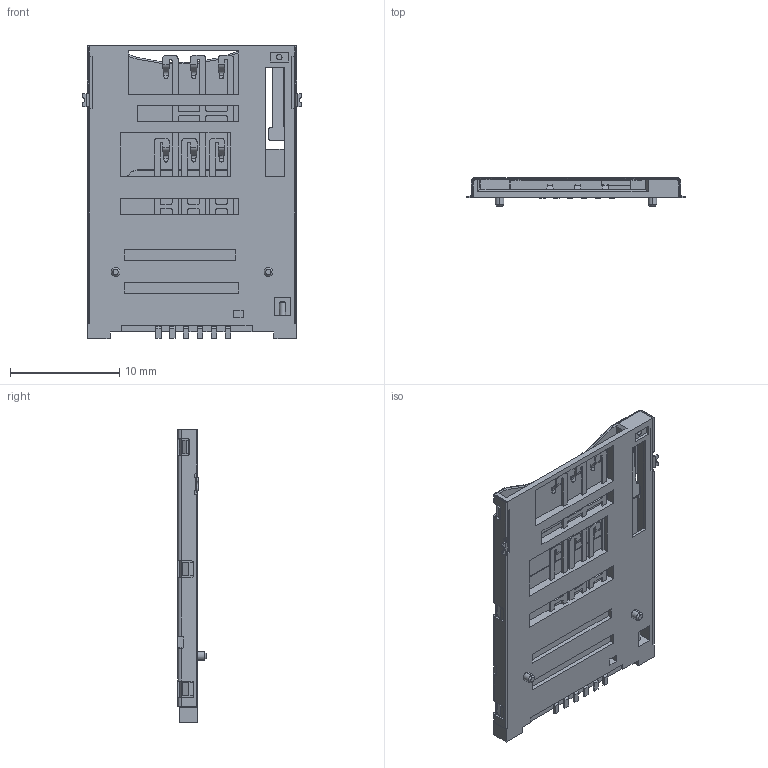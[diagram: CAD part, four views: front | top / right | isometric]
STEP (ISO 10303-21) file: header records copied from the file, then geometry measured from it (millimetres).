
FILE_DESCRIPTION((''),'2;1');
FILE_NAME('SIM-CARD_1050601AR003','2018-09-04T',('Administrator'),(''),'PRO/ENGINEER BY PARAMETRIC TECHNOLOGY CORPORATION, 2010280','PRO/ENGINEER BY PARAMETRIC TECHNOLOGY CORPORATION, 2010280','');
FILE_SCHEMA(('CONFIG_CONTROL_DESIGN'));
Length unit declared in the file: millimetre
Products named in the file (1): SIM-CARD_1050601AR003
Bounding box: 20.16 x 2.6 x 26.85 mm (x, y, z)
Volume: 386.7 mm3; surface area: 2190.2 mm2
Topology: 1 solids, 2 shells, 653 faces, 1937 edges, 1274 vertices
Faces by surface type: plane 447, cylinder 186, cone 14, torus 4, bspline 2
Entity records: 22071 total; most frequent: CARTESIAN_POINT 4229, ORIENTED_EDGE 3874, DIRECTION 3525, EDGE_CURVE 1937, VECTOR 1505, LINE 1505, VERTEX_POINT 1274, AXIS2_PLACEMENT_3D 1010
